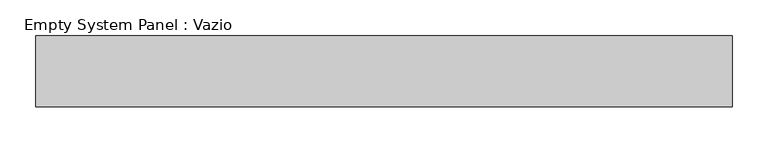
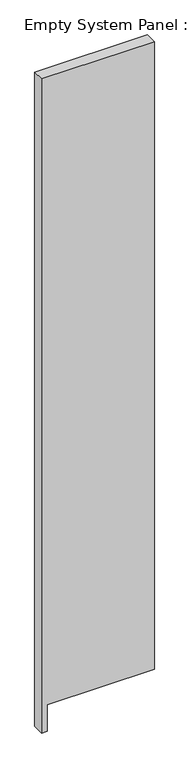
"""IFC4 building model written with IfcOpenShell, lengths in millimetres: plate geometry, Empty System Panel : Vazio."""

import ifcopenshell
import ifcopenshell.guid

model = None  # the IFC model being written
_history = None  # IfcOwnerHistory: only IFC2X3 demands one
_inside = {}  # id of a spatial element -> (the spatial element, [elements in it])
_under = {}  # id of a project, library or spatial element -> (it, [spatial elements below it])
_declared = {}  # id of a project -> (the project, [libraries it declares])
_typed = {}  # id of a type object -> (the type object, [elements of that type])
_made_of = {}  # id of a material, layer set ... -> (it, [elements and type objects made of it])


def new_model(schema):
    """Start an empty IFC model of exactly this schema.

    Asked for "IFC4X3", IfcOpenShell would pick the latest addendum, in which some entities
    have other attributes; the version numbers below select the first issue.
    IFC2X3 requires an IfcOwnerHistory on every rooted entity: one is made here for all.
    """
    global model, _history
    if schema == "IFC4X3":
        model = ifcopenshell.file(schema_version=(4, 3, 0, 0))
    else:
        model = ifcopenshell.file(schema=schema)
    _inside.clear()
    _under.clear()
    _declared.clear()
    _typed.clear()
    _made_of.clear()
    _history = None
    if model.schema == "IFC2X3":
        org = make("IfcOrganization", Name="unknown")
        user = make(
            "IfcPersonAndOrganization",
            ThePerson=make("IfcPerson", FamilyName="unknown"),
            TheOrganization=org,
        )
        app = make(
            "IfcApplication",
            ApplicationDeveloper=org,
            Version="unknown",
            ApplicationFullName="unknown",
            ApplicationIdentifier="unknown",
        )
        _history = make(
            "IfcOwnerHistory",
            OwningUser=user,
            OwningApplication=app,
            ChangeAction="ADDED",
            CreationDate=0,
        )
    return model


def make(cls, **values):
    """One entity of the class cls with the attributes given. An attribute that is None is left unset."""
    return model.create_entity(
        cls, **{name: value for name, value in values.items() if value is not None}
    )


def rooted(cls, **values):
    """An entity with a GlobalId (a new one), such as an element, a storey or a relation."""
    return make(cls, GlobalId=ifcopenshell.guid.new(), OwnerHistory=_history, **values)


def si_unit(unit_type, name, prefix=None):
    """IfcSIUnit, for example si_unit("LENGTHUNIT", "METRE", prefix="MILLI")."""
    return make("IfcSIUnit", UnitType=unit_type, Prefix=prefix, Name=name)


def assignment(units):
    """IfcUnitAssignment: the units of a project."""
    return None if units is None else make("IfcUnitAssignment", Units=units)


def point(xyz):
    """IfcCartesianPoint."""
    return None if xyz is None else make("IfcCartesianPoint", Coordinates=xyz)


def direction(xyz):
    """IfcDirection."""
    return None if xyz is None else make("IfcDirection", DirectionRatios=xyz)


def frame(location, z_axis=None, x_axis=None):
    """IfcAxis2Placement3D, a coordinate frame: its origin and axes. An axis left out is left unset."""
    return make(
        "IfcAxis2Placement3D",
        Location=point(location),
        Axis=direction(z_axis),
        RefDirection=direction(x_axis),
    )


def origin():
    """The frame at (0, 0, 0) with its axes left unset."""
    return frame((0.0, 0.0, 0.0))


def place(relative_to, where):
    """IfcLocalPlacement: puts the frame where relative to a parent placement (None: the world)."""
    return make(
        "IfcLocalPlacement", PlacementRelTo=relative_to, RelativePlacement=where
    )


def context(
    kind, dimensions, precision=None, world=None, true_north=None, identifier=None
):
    """IfcGeometricRepresentationContext, for example the 3D "Model" context."""
    return make(
        "IfcGeometricRepresentationContext",
        ContextIdentifier=identifier,
        ContextType=kind,
        CoordinateSpaceDimension=dimensions,
        Precision=precision,
        WorldCoordinateSystem=world,
        TrueNorth=true_north,
    )


def project(units=None, contexts=None):
    """IfcProject with its units and contexts."""
    return rooted(
        "IfcProject",
        Name="project",
        RepresentationContexts=contexts,
        UnitsInContext=assignment(units),
    )


def spatial(cls, under=None, at=None, **own):
    """A site, building, storey or space (cls), placed at a placement, below another one or the project."""
    s = rooted(cls, ObjectPlacement=at, **own)
    if under is not None:
        _under.setdefault(under.id(), (under, []))[1].append(s)
    return s


def polyline(points):
    """IfcPolyline through the points."""
    return make("IfcPolyline", Points=[point(p) for p in points])


def outline(outer, holes=None, kind="AREA"):
    """IfcArbitraryClosedProfileDef: a profile drawn as a closed curve; with holes, ...WithVoids."""
    if holes is None:
        return make("IfcArbitraryClosedProfileDef", ProfileType=kind, OuterCurve=outer)
    return make(
        "IfcArbitraryProfileDefWithVoids",
        ProfileType=kind,
        OuterCurve=outer,
        InnerCurves=holes,
    )


def extrude(swept, where, along, depth):
    """IfcExtrudedAreaSolid: the profile swept, set in the frame where, extruded along a direction by depth."""
    return make(
        "IfcExtrudedAreaSolid",
        SweptArea=swept,
        Position=where,
        ExtrudedDirection=direction(along),
        Depth=depth,
    )


def shape(context_of_items, identifier, shape_type, items):
    """IfcShapeRepresentation: the items that make up one representation, for example the "Body"."""
    return make(
        "IfcShapeRepresentation",
        ContextOfItems=context_of_items,
        RepresentationIdentifier=identifier,
        RepresentationType=shape_type,
        Items=items,
    )


def source(mapping_origin, context_of_items, identifier, shape_type, items):
    """IfcRepresentationMap: a shape defined once, which mapped items show again and again."""
    return make(
        "IfcRepresentationMap",
        MappingOrigin=mapping_origin,
        MappedRepresentation=shape(context_of_items, identifier, shape_type, items),
    )


def transform(
    local_origin,
    x_axis=None,
    y_axis=None,
    z_axis=None,
    scale=None,
    scale2=None,
    scale3=None,
    uniform=True,
):
    """IfcCartesianTransformationOperator3D, or its non-uniform kind. x_axis, y_axis, z_axis: its Axis1, 2, 3."""
    if uniform:
        return make(
            "IfcCartesianTransformationOperator3D",
            Axis1=direction(x_axis),
            Axis2=direction(y_axis),
            LocalOrigin=point(local_origin),
            Scale=scale,
            Axis3=direction(z_axis),
        )
    return make(
        "IfcCartesianTransformationOperator3DnonUniform",
        Axis1=direction(x_axis),
        Axis2=direction(y_axis),
        LocalOrigin=point(local_origin),
        Scale=scale,
        Axis3=direction(z_axis),
        Scale2=scale2,
        Scale3=scale3,
    )


def mapped(mapping_source, mapping_target):
    """IfcMappedItem: shows the shape of a source again, moved by a transform."""
    return make(
        "IfcMappedItem", MappingSource=mapping_source, MappingTarget=mapping_target
    )


def made_of(thing, what):
    """Note that an element or type object is made of a material, layer set ...; save() writes the relation."""
    if what is not None:
        _made_of.setdefault(what.id(), (what, []))[1].append(thing)
    return thing


def element(
    cls,
    number,
    at=None,
    inside=None,
    cuts=None,
    type_object=None,
    material=None,
    context=None,
    identifier="Body",
    shape_type=None,
    held_by="IfcProductDefinitionShape",
    body=None,
    shapes=None,
    **own,
):
    """One element of the class cls, such as IfcWall. Its Tag is "e" and its number.

    at: its placement. inside: the storey or other place that contains it. cuts: it is an
    opening in that element (IfcRelVoidsElement). A single representation is given by context,
    identifier, shape_type and body (its items); several are given by shapes. held_by: the class
    of the entity that holds the representations. save() writes the other relations.
    """
    e = rooted(cls, Tag="e%d" % number, ObjectPlacement=at, **own)
    if body is not None:
        shapes = [shape(context, identifier, shape_type, body)]
    if shapes is not None:
        e.Representation = make(held_by, Representations=shapes)
    if inside is not None:
        _inside.setdefault(inside.id(), (inside, []))[1].append(e)
    if cuts is not None:
        rooted(
            "IfcRelVoidsElement", RelatingBuildingElement=cuts, RelatedOpeningElement=e
        )
    if type_object is not None:
        _typed.setdefault(type_object.id(), (type_object, []))[1].append(e)
    return made_of(e, material)


def aggregate(whole, parts):
    """IfcRelAggregates: a whole, such as a stair, and the parts it consists of."""
    return rooted("IfcRelAggregates", RelatingObject=whole, RelatedObjects=parts)


def save(model, path):
    """Write the relations noted so far, then the file.

    IfcRelAggregates (storeys below a building ...), IfcRelContainedInSpatialStructure (elements
    in a storey), IfcRelDefinesByType, IfcRelAssociatesMaterial and IfcRelDeclares: one each for
    every whole, place, type object, material and project.
    """
    for whole, parts in _under.values():
        aggregate(whole, parts)
    for where, things in _inside.values():
        rooted(
            "IfcRelContainedInSpatialStructure",
            RelatedElements=things,
            RelatingStructure=where,
        )
    for kind, things in _typed.values():
        rooted("IfcRelDefinesByType", RelatedObjects=things, RelatingType=kind)
    for what, things in _made_of.values():
        rooted("IfcRelAssociatesMaterial", RelatedObjects=things, RelatingMaterial=what)
    for by, libraries in _declared.values():
        rooted("IfcRelDeclares", RelatingContext=by, RelatedDefinitions=libraries)
    model.write(path)


def empty_system_panel_vazio_c402e9f3(model_context):
    return source(origin(), model_context, "Body", "SweptSolid", [
        extrude(outline(polyline([(0.0, -490.0), (0.0, -440.4020111), (240.8869747, -440.4020111), (240.8618533, 490.0), (5999.7757458, 490.0), (5999.7757458, -490.0), (0.0, -490.0)])), frame((0.0, 50.0, 0.0), z_axis=(0.0, 1.0, 0.0), x_axis=(0.0, 0.0, 1.0)), (0.0, 0.0, 1.0), 100.0),
    ])


if __name__ == "__main__":
    model = new_model("IFC4")
    model_context = context("Model", 3, world=origin())
    ifc_project = project(units=[si_unit("LENGTHUNIT", "METRE", prefix="MILLI")], contexts=[model_context])
    site = spatial("IfcSite", under=ifc_project)
    building = spatial("IfcBuilding", under=site)
    placement = place(None, origin())
    empty_system_panel_vazio_shape = empty_system_panel_vazio_c402e9f3(model_context)
    element("IfcPlate", 1, ObjectType="Empty System Panel : Vazio", at=placement, inside=building, context=model_context, shape_type="MappedRepresentation", body=[
        mapped(empty_system_panel_vazio_shape, transform((0.0, 0.0, 0.0), x_axis=(1.0, 0.0, 0.0), y_axis=(0.0, 1.0, 0.0), z_axis=(0.0, 0.0, 1.0))),
    ])
    save(model, "model.ifc")
